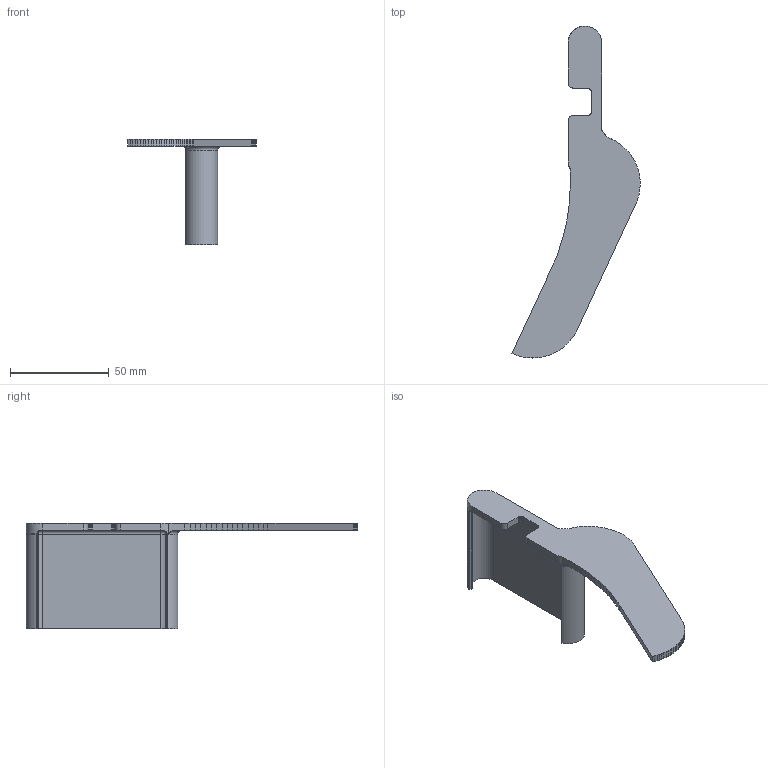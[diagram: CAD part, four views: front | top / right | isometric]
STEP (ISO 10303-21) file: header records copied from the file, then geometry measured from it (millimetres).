
FILE_DESCRIPTION (( 'STEP AP214' ), '1' );
FILE_NAME ('iPhone_7_CD_Halterung_neu.STEP', '2018-07-04T05:37:18', ( '' ), ( '' ), 'SwSTEP 2.0', 'SolidWorks 2017', '' );
FILE_SCHEMA (( 'AUTOMOTIVE_DESIGN' ));
Length unit declared in the file: millimetre
Products named in the file (1): iPhone_7_CD_Halterung_neu
Bounding box: 65.15 x 168.49 x 53.5 mm (x, y, z)
Volume: 24462.9 mm3; surface area: 19761.2 mm2
Topology: 1 solids, 1 shells, 145 faces, 416 edges, 273 vertices
Faces by surface type: plane 119, cylinder 18, torus 8
Entity records: 4760 total; most frequent: CARTESIAN_POINT 907, ORIENTED_EDGE 832, DIRECTION 749, EDGE_CURVE 416, LINE 359, VECTOR 359, VERTEX_POINT 273, AXIS2_PLACEMENT_3D 195
